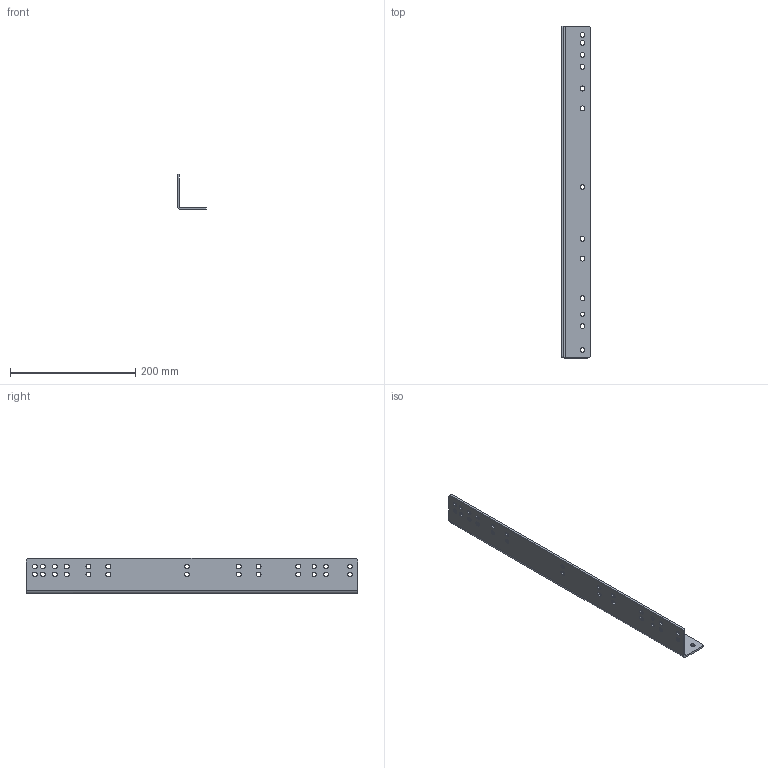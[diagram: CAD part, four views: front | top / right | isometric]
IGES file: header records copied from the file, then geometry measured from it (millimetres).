
Global section: file name: WI-IN_2257619-530_links; native system: Autodesk Inventor 2015; preprocessor: unknown; author: MelKon; date: 20171024.135234; units: millimetre
Bounding box: 46.2 x 530 x 55.9 mm (x, y, z)
Volume: 150833.3 mm3; surface area: 106400.7 mm2
Topology: 1 solids, 1 shells, 161 faces, 477 edges, 318 vertices
Faces by surface type: bspline 161
